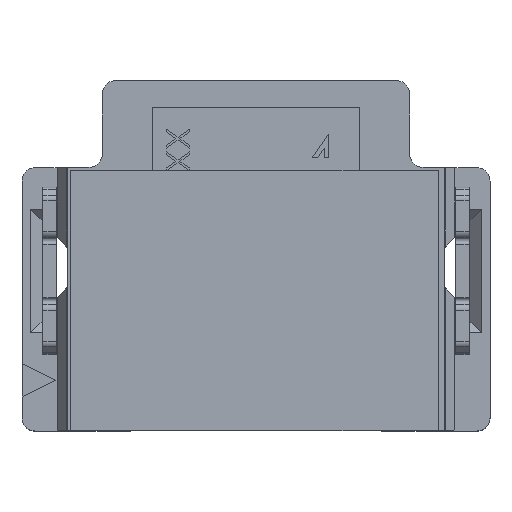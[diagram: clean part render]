
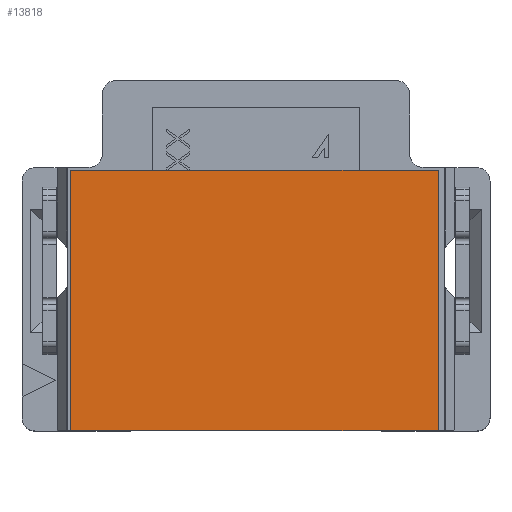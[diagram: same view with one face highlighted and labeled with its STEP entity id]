
A CAD part, top view. The second image highlights one B-rep face of the part: STEP entity #13818.
In plain terms, the highlighted planar face has unit normal (0, 0, 1).
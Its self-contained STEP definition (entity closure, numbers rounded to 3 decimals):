
#13703=DIRECTION('',(0.,1.,0.));
#13704=VECTOR('',#13703,3.9);
#13705=CARTESIAN_POINT('',(0.,-3.9,0.1));
#13706=LINE('',#13705,#13704);
#13707=DIRECTION('',(1.,0.,0.));
#13708=VECTOR('',#13707,5.5);
#13709=CARTESIAN_POINT('',(0.,0.,0.1));
#13710=LINE('',#13709,#13708);
#13711=DIRECTION('',(0.,-1.,0.));
#13712=VECTOR('',#13711,3.9);
#13713=CARTESIAN_POINT('',(5.5,0.,0.1));
#13714=LINE('',#13713,#13712);
#13715=DIRECTION('',(-1.,0.,0.));
#13716=VECTOR('',#13715,5.5);
#13717=CARTESIAN_POINT('',(5.5,-3.9,0.1));
#13718=LINE('',#13717,#13716);
#13727=CARTESIAN_POINT('',(0.,0.,0.1));
#13728=VERTEX_POINT('',#13727);
#13729=CARTESIAN_POINT('',(0.,-3.9,0.1));
#13730=VERTEX_POINT('',#13729);
#13731=CARTESIAN_POINT('',(5.5,0.,0.1));
#13732=VERTEX_POINT('',#13731);
#13733=CARTESIAN_POINT('',(5.5,-3.9,0.1));
#13734=VERTEX_POINT('',#13733);
#13807=CARTESIAN_POINT('',(0.,0.,0.1));
#13808=DIRECTION('',(0.,0.,1.));
#13809=DIRECTION('',(1.,0.,0.));
#13810=AXIS2_PLACEMENT_3D('',#13807,#13808,#13809);
#13811=PLANE('',#13810);
#13812=ORIENTED_EDGE('',*,*,#13759,.T.);
#13813=ORIENTED_EDGE('',*,*,#13774,.T.);
#13814=ORIENTED_EDGE('',*,*,#13788,.T.);
#13815=ORIENTED_EDGE('',*,*,#13801,.T.);
#13816=EDGE_LOOP('',(#13812,#13813,#13814,#13815));
#13817=FACE_OUTER_BOUND('',#13816,.F.);
#13759=EDGE_CURVE('',#13730,#13728,#13706,.T.);
#13774=EDGE_CURVE('',#13728,#13732,#13710,.T.);
#13788=EDGE_CURVE('',#13732,#13734,#13714,.T.);
#13801=EDGE_CURVE('',#13734,#13730,#13718,.T.);
#13818=ADVANCED_FACE('',(#13817),#13811,.T.);
